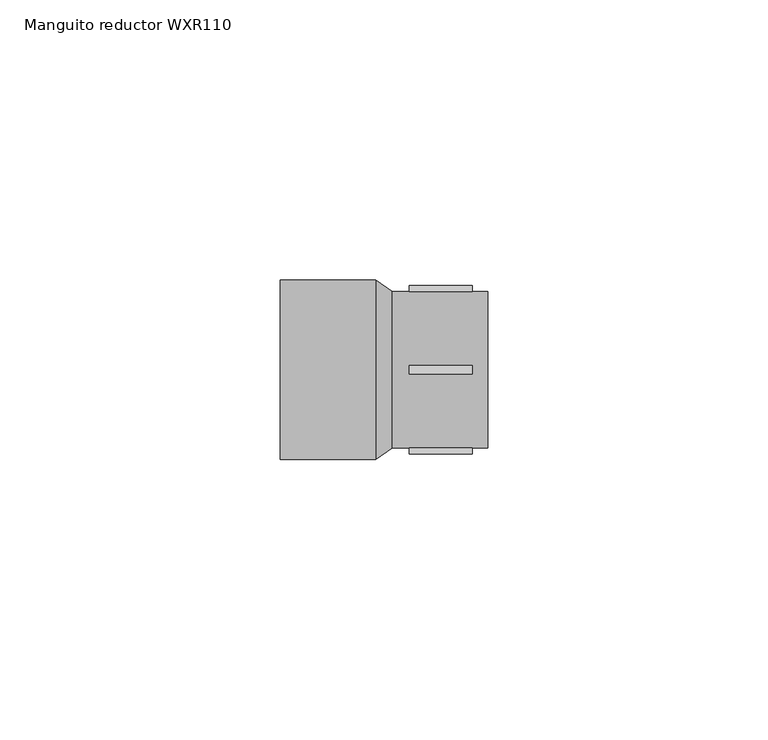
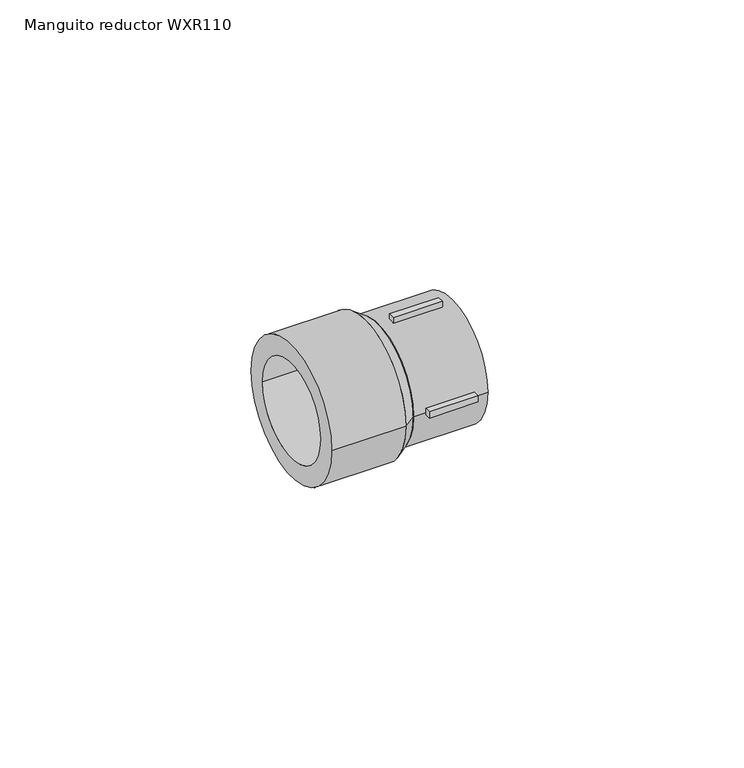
"""IFC4 building model written with IfcOpenShell, lengths in millimetres: pipe fitting geometry, EGB_VASEN_ PPR_Manguito reductor WXR110 : Manguito reductor WXR110."""

from ifc_helpers import new_model, si_unit, point, frame, origin, origin_2d, place, context, project, spatial, polyline, circle_curve, trimmed, segment, composite_curve, outline, extrude, source, transform, mapped, element, save
from ifc_brep_helpers import plane_surface, revolved_surface, advanced_brep


def manguito_reductor_wxr110_c924d434(model_context):
    return source(origin(), model_context, "Body", "SolidModel", [
        extrude(outline(polyline([(4.5, -0.75), (4.5, 0.75), (15.7, 0.75), (15.7, -0.75), (4.5, -0.75)])), frame((0.0, 0.0, 13.0), z_axis=(0.0, 0.0, 1.0), x_axis=(1.0, 0.0, 0.0)), (0.0, 0.0, 1.0), 2.0),
        extrude(outline(polyline([(4.5, -0.75), (4.5, 0.75), (15.7, 0.75), (15.7, -0.75), (4.5, -0.75)])), frame((0.0, 0.0, -15.0), z_axis=(0.0, 0.0, 1.0), x_axis=(1.0, 0.0, 0.0)), (0.0, 0.0, 1.0), 2.0),
        extrude(outline(polyline([(4.5, 13.0), (4.5, 15.0), (15.7, 15.0), (15.7, 13.0), (4.5, 13.0)])), frame((0.0, 0.0, -0.75), z_axis=(0.0, 0.0, 1.0), x_axis=(1.0, 0.0, 0.0)), (0.0, 0.0, 1.0), 1.5),
        extrude(outline(polyline([(4.5, -15.0), (4.5, -13.0), (15.7, -13.0), (15.7, -15.0), (4.5, -15.0)])), frame((0.0, 0.0, -0.75), z_axis=(0.0, 0.0, 1.0), x_axis=(1.0, 0.0, 0.0)), (0.0, 0.0, 1.0), 1.5),
        extrude(outline(composite_curve([segment(trimmed(circle_curve(origin_2d(), 14.0), [point((-14.0, 0.0))], [point((14.0, 0.0))], False, "CARTESIAN"), True, "CONTINUOUS"), segment(trimmed(circle_curve(origin_2d(), 14.0), [point((14.0, 0.0))], [point((-14.0, 0.0))], False, "CARTESIAN"), True, "CONTINUOUS")], self_intersect=False), holes=[composite_curve([segment(trimmed(circle_curve(origin_2d(), 10.0), [point((-10.0, 0.0))], [point((10.0, 0.0))], True, "CARTESIAN"), True, "CONTINUOUS"), segment(trimmed(circle_curve(origin_2d(), 10.0), [point((10.0, 0.0))], [point((-10.0, 0.0))], True, "CARTESIAN"), True, "CONTINUOUS")], self_intersect=False)]), frame((1.48, 0.0, 0.0), z_axis=(1.0, 0.0, 0.0), x_axis=(0.0, 1.0, 0.0)), (0.0, 0.0, 1.0), 17.02),
        extrude(outline(composite_curve([segment(trimmed(circle_curve(origin_2d(), 16.0), [point((-16.0, 0.0))], [point((16.0, 0.0))], False, "CARTESIAN"), True, "CONTINUOUS"), segment(trimmed(circle_curve(origin_2d(), 16.0), [point((16.0, 0.0))], [point((-16.0, 0.0))], False, "CARTESIAN"), True, "CONTINUOUS")], self_intersect=False), holes=[composite_curve([segment(trimmed(circle_curve(origin_2d(), 11.5), [point((-11.5, 0.0))], [point((11.5, 0.0))], True, "CARTESIAN"), True, "CONTINUOUS"), segment(trimmed(circle_curve(origin_2d(), 11.5), [point((11.5, 0.0))], [point((-11.5, 0.0))], True, "CARTESIAN"), True, "CONTINUOUS")], self_intersect=False)]), frame((-18.5, 0.0, 0.0), z_axis=(1.0, 0.0, 0.0), x_axis=(0.0, 1.0, 0.0)), (0.0, 0.0, 1.0), 17.02),
        advanced_brep(
        [(1.48, -14.0, 0.0), (1.48, 14.0, 0.0), (-1.48, -16.0, 0.0), (-1.48, 16.0, 0.0)],
        [
            (0, 1, circle_curve(frame((1.48, 0.0, 0.0), z_axis=(1.0, 0.0, 0.0), x_axis=(0.0, -1.0, 0.0)), 14.0)),
            (1, 0, circle_curve(frame((1.48, 0.0, 0.0), z_axis=(1.0, 0.0, 0.0), x_axis=(0.0, 1.0, 0.0)), 14.0)),
            (2, 3, circle_curve(frame((-1.48, 0.0, 0.0), z_axis=(-1.0, 0.0, 0.0), x_axis=(0.0, 1.0, 0.0)), 16.0)),
            (3, 2, circle_curve(frame((-1.48, 0.0, 0.0), z_axis=(-1.0, 0.0, 0.0), x_axis=(0.0, -1.0, 0.0)), 16.0)),
            (3, 1),
            (0, 2),
        ],
        [
            plane_surface(frame((1.48, 0.0, 0.0), z_axis=(1.0, 0.0, 0.0), x_axis=(0.0, 0.0, -1.0))),
            plane_surface(frame((-1.48, 0.0, 0.0), z_axis=(-1.0, 0.0, 0.0), x_axis=(0.0, 0.0, -1.0))),
            revolved_surface(polyline([(1.4800000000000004, -14.0, 0.0), (-1.4800000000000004, -16.0, 0.0)]), (22.2, 0.0, 0.0), (-1.0, 0.0, 0.0)),
            revolved_surface(polyline([(1.4800000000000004, 14.0, 0.0), (-1.4800000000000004, 16.0, 0.0)]), (22.2, 0.0, 0.0), (-1.0, 0.0, 0.0)),
        ],
        [
            (0, [[1, 2]]),
            (1, [[3, 4]]),
            (2, [[-4, 5, -1, 6]]),
            (3, [[-3, -6, -2, -5]]),
        ],
    ),
    ])


if __name__ == "__main__":
    model = new_model("IFC4")
    model_context = context("Model", 3, world=origin())
    ifc_project = project(units=[si_unit("LENGTHUNIT", "METRE", prefix="MILLI")], contexts=[model_context])
    site = spatial("IfcSite", under=ifc_project)
    building = spatial("IfcBuilding", under=site)
    placement = place(None, origin())
    manguito_reductor_wxr110_shape = manguito_reductor_wxr110_c924d434(model_context)
    element("IfcPipeFitting", 1, ObjectType="EGB_VASEN_ PPR_Manguito reductor WXR110 : Manguito reductor WXR110", at=placement, inside=building, context=model_context, shape_type="MappedRepresentation", body=[
        mapped(manguito_reductor_wxr110_shape, transform((0.0, 0.0, 0.0), x_axis=(1.0, 0.0, 0.0), y_axis=(0.0, 1.0, 0.0), z_axis=(0.0, 0.0, 1.0))),
    ])
    save(model, "model.ifc")
